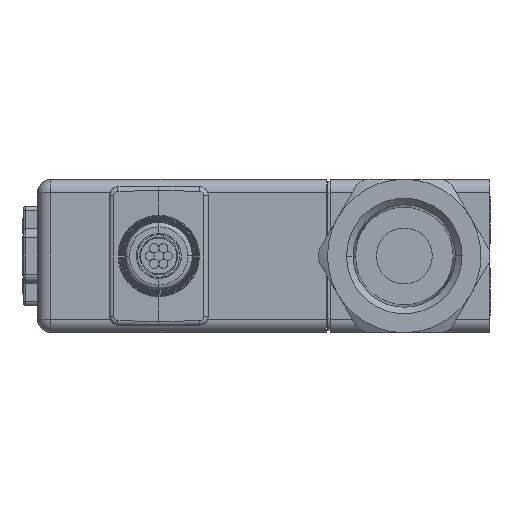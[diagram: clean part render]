
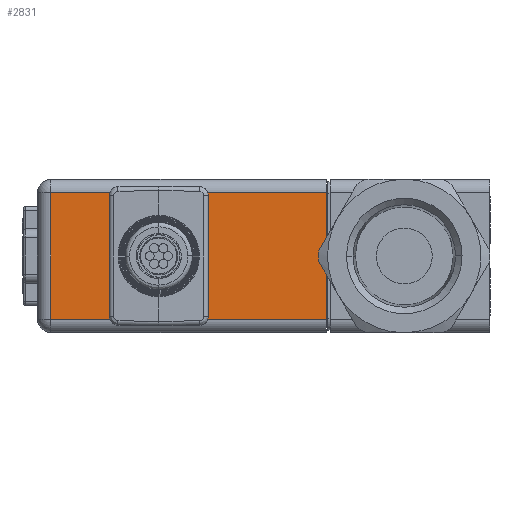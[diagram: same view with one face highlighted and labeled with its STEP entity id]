
A CAD part, left-side view. The second image highlights one B-rep face of the part: STEP entity #2831.
In plain terms, the highlighted planar face has unit normal (-1, 0, 0).
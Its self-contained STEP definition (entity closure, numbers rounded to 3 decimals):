
#2831=ADVANCED_FACE('',(#5873,#5874),#5875,.T.);
#5873=FACE_BOUND('',#11039,.T.);
#5874=FACE_OUTER_BOUND('',#11040,.T.);
#5875=PLANE('',#11041);
#11039=EDGE_LOOP('',(#19897,#19898,#19899,#19900,#19901,#19902,#19903,#19904,#19905,#19906,#19907,#19908,#19909,#19910));
#11040=EDGE_LOOP('',(#19911,#19912,#19913,#19914));
#11041=AXIS2_PLACEMENT_3D('',#19915,#19916,#19917);
#19897=ORIENTED_EDGE('',*,*,#24430,.F.);
#19898=ORIENTED_EDGE('',*,*,#24669,.F.);
#19899=ORIENTED_EDGE('',*,*,#24379,.T.);
#19900=ORIENTED_EDGE('',*,*,#26008,.F.);
#19901=ORIENTED_EDGE('',*,*,#26009,.T.);
#19902=ORIENTED_EDGE('',*,*,#26010,.F.);
#19903=ORIENTED_EDGE('',*,*,#24385,.F.);
#19904=ORIENTED_EDGE('',*,*,#26011,.T.);
#19905=ORIENTED_EDGE('',*,*,#26012,.F.);
#19906=ORIENTED_EDGE('',*,*,#26013,.F.);
#19907=ORIENTED_EDGE('',*,*,#26014,.T.);
#19908=ORIENTED_EDGE('',*,*,#25804,.F.);
#19909=ORIENTED_EDGE('',*,*,#25465,.T.);
#19910=ORIENTED_EDGE('',*,*,#26015,.F.);
#19911=ORIENTED_EDGE('',*,*,#25861,.F.);
#19912=ORIENTED_EDGE('',*,*,#25300,.T.);
#19913=ORIENTED_EDGE('',*,*,#25206,.T.);
#19914=ORIENTED_EDGE('',*,*,#24405,.F.);
#19915=CARTESIAN_POINT('',(-27.5,18.15,-8.5));
#19916=DIRECTION('',(-1.0,0.0,0.0));
#19917=DIRECTION('',(0.0,0.0,1.0));
#24379=EDGE_CURVE('',#30851,#30852,#30853,.T.);
#24385=EDGE_CURVE('',#30860,#30863,#30864,.T.);
#24405=EDGE_CURVE('',#30898,#30900,#30901,.T.);
#24430=EDGE_CURVE('',#30437,#30941,#30942,.T.);
#24669=EDGE_CURVE('',#30851,#30437,#31356,.T.);
#25206=EDGE_CURVE('',#32198,#30900,#32199,.T.);
#25300=EDGE_CURVE('',#32263,#32198,#32339,.T.);
#25465=EDGE_CURVE('',#32560,#32561,#32562,.T.);
#25804=EDGE_CURVE('',#32560,#33041,#33042,.T.);
#25861=EDGE_CURVE('',#32263,#30898,#33114,.T.);
#26008=EDGE_CURVE('',#33301,#30852,#33302,.T.);
#26009=EDGE_CURVE('',#33301,#33303,#33304,.T.);
#26010=EDGE_CURVE('',#30863,#33303,#33305,.T.);
#26011=EDGE_CURVE('',#30860,#33306,#33307,.T.);
#26012=EDGE_CURVE('',#33308,#33306,#33309,.T.);
#26013=EDGE_CURVE('',#33310,#33308,#33311,.T.);
#26014=EDGE_CURVE('',#33310,#33041,#33312,.T.);
#26015=EDGE_CURVE('',#30941,#32561,#33313,.T.);
#30437=VERTEX_POINT('',#40076);
#30851=VERTEX_POINT('',#40679);
#30852=VERTEX_POINT('',#40680);
#30853=CIRCLE('',#40681,0.5);
#30860=VERTEX_POINT('',#40690);
#30863=VERTEX_POINT('',#40694);
#30864=LINE('',#40695,#40696);
#30898=VERTEX_POINT('',#40743);
#30900=VERTEX_POINT('',#40745);
#30901=LINE('',#40746,#40747);
#30941=VERTEX_POINT('',#40792);
#30942=LINE('',#40793,#40794);
#31356=LINE('',#41534,#41535);
#32198=VERTEX_POINT('',#43082);
#32199=LINE('',#43083,#43084);
#32263=VERTEX_POINT('',#43168);
#32339=LINE('',#43268,#43269);
#32560=VERTEX_POINT('',#43662);
#32561=VERTEX_POINT('',#43663);
#32562=CIRCLE('',#43664,0.5);
#33041=VERTEX_POINT('',#44554);
#33042=LINE('',#44555,#44556);
#33114=LINE('',#44662,#44663);
#33301=VERTEX_POINT('',#45004);
#33302=LINE('',#45005,#45006);
#33303=VERTEX_POINT('',#45007);
#33304=CIRCLE('',#45008,0.5);
#33305=LINE('',#45009,#45010);
#33306=VERTEX_POINT('',#45011);
#33307=LINE('',#45012,#45013);
#33308=VERTEX_POINT('',#45014);
#33309=LINE('',#45015,#45016);
#33310=VERTEX_POINT('',#45017);
#33311=LINE('',#45018,#45019);
#33312=CIRCLE('',#45020,0.5);
#33313=LINE('',#45021,#45022);
#40076=CARTESIAN_POINT('',(-27.5,33.15,-3.55));
#40679=CARTESIAN_POINT('',(-27.5,33.15,-5.05));
#40680=CARTESIAN_POINT('',(-27.5,33.65,-5.55));
#40681=AXIS2_PLACEMENT_3D('',#49026,#49027,#49028);
#40690=CARTESIAN_POINT('',(-27.5,39.95,-3.55));
#40694=CARTESIAN_POINT('',(-27.5,40.25,-3.55));
#40695=CARTESIAN_POINT('',(-27.5,39.95,-3.55));
#40696=VECTOR('',#49035,1.0);
#40743=CARTESIAN_POINT('',(-27.5,48.65,7.0));
#40745=CARTESIAN_POINT('',(-27.5,18.15,7.0));
#40746=CARTESIAN_POINT('',(-27.5,48.65,7.0));
#40747=VECTOR('',#49058,1.0);
#40792=CARTESIAN_POINT('',(-27.5,33.15,3.55));
#40793=CARTESIAN_POINT('',(-27.5,33.15,-3.55));
#40794=VECTOR('',#49106,1.0);
#41534=CARTESIAN_POINT('',(-27.5,33.15,-5.05));
#41535=VECTOR('',#49365,1.0);
#43082=CARTESIAN_POINT('',(-27.5,18.15,-7.0));
#43083=CARTESIAN_POINT('',(-27.5,18.15,-7.0));
#43084=VECTOR('',#49946,1.0);
#43168=CARTESIAN_POINT('',(-27.5,48.65,-7.0));
#43268=CARTESIAN_POINT('',(-27.5,48.65,-7.0));
#43269=VECTOR('',#50075,1.0);
#43662=CARTESIAN_POINT('',(-27.5,33.65,5.55));
#43663=CARTESIAN_POINT('',(-27.5,33.15,5.05));
#43664=AXIS2_PLACEMENT_3D('',#50256,#50257,#50258);
#44554=CARTESIAN_POINT('',(-27.5,39.75,5.55));
#44555=CARTESIAN_POINT('',(-27.5,33.65,5.55));
#44556=VECTOR('',#50602,1.0);
#44662=CARTESIAN_POINT('',(-27.5,48.65,-7.0));
#44663=VECTOR('',#50651,1.0);
#45004=CARTESIAN_POINT('',(-27.5,39.75,-5.55));
#45005=CARTESIAN_POINT('',(-27.5,39.75,-5.55));
#45006=VECTOR('',#50813,1.0);
#45007=CARTESIAN_POINT('',(-27.5,40.25,-5.05));
#45008=AXIS2_PLACEMENT_3D('',#50814,#50815,#50816);
#45009=CARTESIAN_POINT('',(-27.5,40.25,-3.55));
#45010=VECTOR('',#50817,1.0);
#45011=CARTESIAN_POINT('',(-27.5,39.95,3.55));
#45012=CARTESIAN_POINT('',(-27.5,39.95,-3.55));
#45013=VECTOR('',#50818,1.0);
#45014=CARTESIAN_POINT('',(-27.5,40.25,3.55));
#45015=CARTESIAN_POINT('',(-27.5,40.25,3.55));
#45016=VECTOR('',#50819,1.0);
#45017=CARTESIAN_POINT('',(-27.5,40.25,5.05));
#45018=CARTESIAN_POINT('',(-27.5,40.25,5.05));
#45019=VECTOR('',#50820,1.0);
#45020=AXIS2_PLACEMENT_3D('',#50821,#50822,#50823);
#45021=CARTESIAN_POINT('',(-27.5,33.15,3.55));
#45022=VECTOR('',#50824,1.0);
#49026=CARTESIAN_POINT('',(-27.5,33.65,-5.05));
#49027=DIRECTION('',(1.0,0.0,0.0));
#49028=DIRECTION('',(0.0,-1.0,0.0));
#49035=DIRECTION('',(0.0,1.0,0.0));
#49058=DIRECTION('',(0.0,-1.0,0.0));
#49106=DIRECTION('',(0.0,0.0,1.0));
#49365=DIRECTION('',(0.0,0.0,1.0));
#49946=DIRECTION('',(0.0,0.0,1.0));
#50075=DIRECTION('',(0.0,-1.0,0.0));
#50256=CARTESIAN_POINT('',(-27.5,33.65,5.05));
#50257=DIRECTION('',(1.0,0.0,-0.0));
#50258=DIRECTION('',(0.0,0.0,1.0));
#50602=DIRECTION('',(0.0,1.0,0.0));
#50651=DIRECTION('',(0.0,0.0,1.0));
#50813=DIRECTION('',(0.0,-1.0,0.0));
#50814=CARTESIAN_POINT('',(-27.5,39.75,-5.05));
#50815=DIRECTION('',(1.0,0.0,0.0));
#50816=DIRECTION('',(0.0,0.0,-1.0));
#50817=DIRECTION('',(0.0,0.0,-1.0));
#50818=DIRECTION('',(0.0,0.0,1.0));
#50819=DIRECTION('',(0.0,-1.0,0.0));
#50820=DIRECTION('',(0.0,0.0,-1.0));
#50821=CARTESIAN_POINT('',(-27.5,39.75,5.05));
#50822=DIRECTION('',(1.0,0.0,0.0));
#50823=DIRECTION('',(0.0,1.0,0.0));
#50824=DIRECTION('',(0.0,0.0,1.0));
